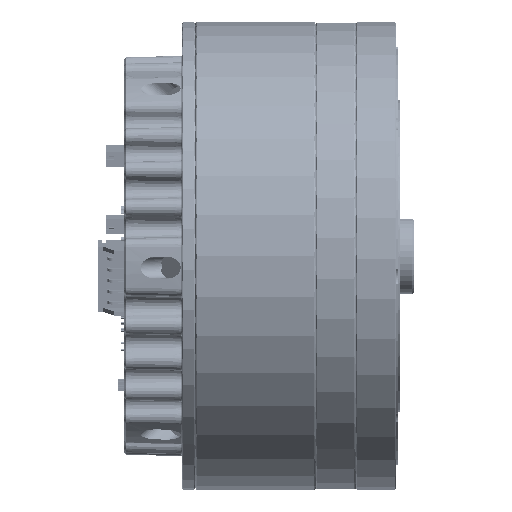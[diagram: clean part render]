
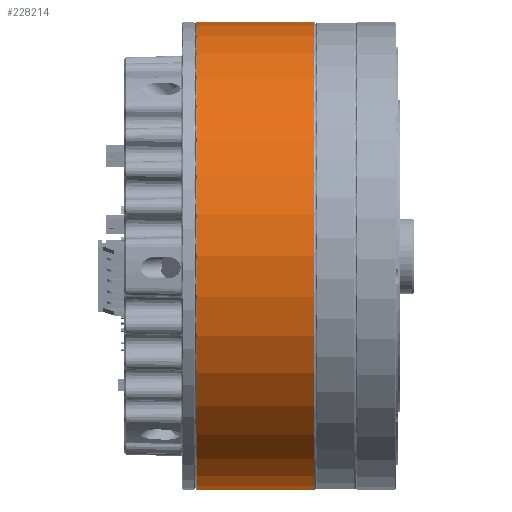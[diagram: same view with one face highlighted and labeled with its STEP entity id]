
A CAD part, front view. The second image highlights one B-rep face of the part: STEP entity #228214.
In plain terms, the highlighted cylindrical face has radius 52.5 mm (diameter 105 mm), a full revolution.
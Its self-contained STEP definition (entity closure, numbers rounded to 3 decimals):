
#5369=CYLINDRICAL_SURFACE('',#245148,52.5);
#12456=FACE_OUTER_BOUND('',#24624,.T.);
#24624=EDGE_LOOP('',(#168072,#168073,#168074,#168075));
#36649=CIRCLE('',#245147,52.5);
#36650=CIRCLE('',#245149,52.5);
#50421=LINE('',#355191,#71963);
#71963=VECTOR('',#285661,52.5);
#94184=VERTEX_POINT('',#355186);
#94185=VERTEX_POINT('',#355190);
#120706=EDGE_CURVE('',#94184,#94184,#36649,.T.);
#120707=EDGE_CURVE('',#94184,#94185,#50421,.T.);
#120708=EDGE_CURVE('',#94185,#94185,#36650,.T.);
#168072=ORIENTED_EDGE('',*,*,#120706,.F.);
#168073=ORIENTED_EDGE('',*,*,#120707,.T.);
#168074=ORIENTED_EDGE('',*,*,#120708,.F.);
#168075=ORIENTED_EDGE('',*,*,#120707,.F.);
#228214=ADVANCED_FACE('',(#12456),#5369,.T.);
#245147=AXIS2_PLACEMENT_3D('',#355188,#285657,#285658);
#245148=AXIS2_PLACEMENT_3D('',#355189,#285659,#285660);
#245149=AXIS2_PLACEMENT_3D('',#355192,#285662,#285663);
#285657=DIRECTION('center_axis',(1.,0.,0.));
#285658=DIRECTION('ref_axis',(0.,-1.,0.));
#285659=DIRECTION('center_axis',(1.,0.,0.));
#285660=DIRECTION('ref_axis',(0.,-1.,0.));
#285661=DIRECTION('',(-1.,0.,0.));
#285662=DIRECTION('center_axis',(-1.,0.,0.));
#285663=DIRECTION('ref_axis',(0.,-1.,0.));
#355186=CARTESIAN_POINT('',(29.7,52.5,0.));
#355188=CARTESIAN_POINT('Origin',(29.7,0.,0.));
#355189=CARTESIAN_POINT('Origin',(3.,0.,0.));
#355190=CARTESIAN_POINT('',(3.3,52.5,0.));
#355191=CARTESIAN_POINT('',(3.,52.5,0.));
#355192=CARTESIAN_POINT('Origin',(3.3,0.,0.));
